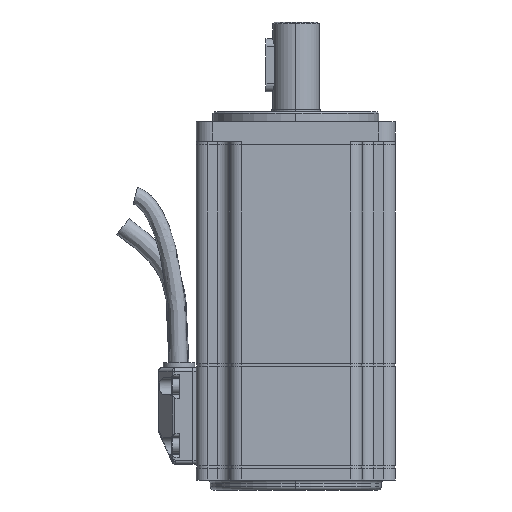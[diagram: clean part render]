
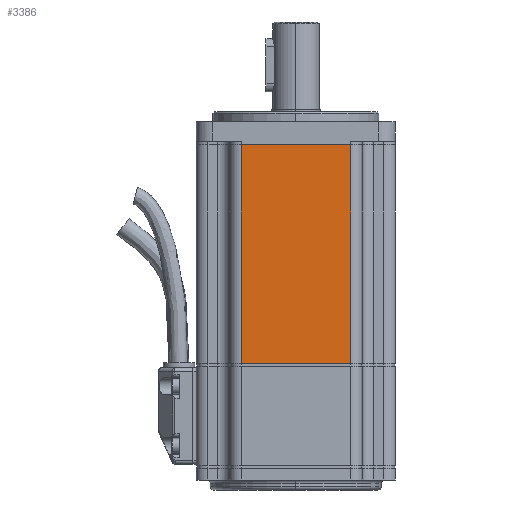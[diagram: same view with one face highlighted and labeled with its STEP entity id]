
A CAD part, left-side view. The second image highlights one B-rep face of the part: STEP entity #3386.
In plain terms, the highlighted planar face has unit normal (-1, 0, 0).
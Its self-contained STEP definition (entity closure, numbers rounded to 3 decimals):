
#3331 = VERTEX_POINT ( 'NONE', #11178 ) ;
#3335 = VERTEX_POINT ( 'NONE', #11172 ) ;
#3337 = EDGE_CURVE ( 'NONE', #3331, #3335, #11171, .T. ) ;
#3386 = ADVANCED_FACE ( 'NONE', ( #11263 ), #11262, .F. ) ;
#3387 = EDGE_LOOP ( 'NONE', ( #3388, #3391, #3392, #3395 ) ) ;
#3388 = ORIENTED_EDGE ( 'NONE', *, *, #3389, .F. ) ;
#3389 = EDGE_CURVE ( 'NONE', #3331, #3390, #11257, .T. ) ;
#3390 = VERTEX_POINT ( 'NONE', #11253 ) ;
#3391 = ORIENTED_EDGE ( 'NONE', *, *, #3337, .T. ) ;
#3392 = ORIENTED_EDGE ( 'NONE', *, *, #3393, .T. ) ;
#3393 = EDGE_CURVE ( 'NONE', #3335, #3394, #11252, .T. ) ;
#3394 = VERTEX_POINT ( 'NONE', #11314 ) ;
#3395 = ORIENTED_EDGE ( 'NONE', *, *, #3396, .T. ) ;
#3396 = EDGE_CURVE ( 'NONE', #3394, #3390, #11313, .T. ) ;
#11168 = DIRECTION ( 'NONE',  ( 0., 0., 1. ) ) ;
#11169 = VECTOR ( 'NONE', #11168, 1000. ) ;
#11170 = CARTESIAN_POINT ( 'NONE',  ( -30., 129.077, -66. ) ) ;
#11171 = LINE ( 'NONE', #11170, #11169 ) ;
#11172 = CARTESIAN_POINT ( 'NONE',  ( -30., 129.077, 0. ) ) ;
#11178 = CARTESIAN_POINT ( 'NONE',  ( -30., 129.077, -66. ) ) ;
#11250 = DIRECTION ( 'NONE',  ( 0., 1., 0. ) ) ;
#11251 = CARTESIAN_POINT ( 'NONE',  ( -30., 125.577, 0. ) ) ;
#11252 = LINE ( 'NONE', #11251, #11315 ) ;
#11253 = CARTESIAN_POINT ( 'NONE',  ( -30., 162.077, -66. ) ) ;
#11254 = DIRECTION ( 'NONE',  ( 0., 1., 0. ) ) ;
#11255 = VECTOR ( 'NONE', #11254, 1000. ) ;
#11256 = CARTESIAN_POINT ( 'NONE',  ( -30., 125.577, -66. ) ) ;
#11257 = LINE ( 'NONE', #11256, #11255 ) ;
#11258 = DIRECTION ( 'NONE',  ( 0., 0., -1. ) ) ;
#11259 = DIRECTION ( 'NONE',  ( 1., 0., 0. ) ) ;
#11260 = AXIS2_PLACEMENT_3D ( 'NONE', #11261, #11259, #11258 ) ;
#11261 = CARTESIAN_POINT ( 'NONE',  ( -30., 125.577, -66. ) ) ;
#11262 = PLANE ( 'NONE',  #11260 ) ;
#11263 = FACE_OUTER_BOUND ( 'NONE', #3387, .T. ) ;
#11310 = DIRECTION ( 'NONE',  ( 0., 0., -1. ) ) ;
#11311 = VECTOR ( 'NONE', #11310, 1000. ) ;
#11312 = CARTESIAN_POINT ( 'NONE',  ( -30., 162.077, -66. ) ) ;
#11313 = LINE ( 'NONE', #11312, #11311 ) ;
#11314 = CARTESIAN_POINT ( 'NONE',  ( -30., 162.077, 0. ) ) ;
#11315 = VECTOR ( 'NONE', #11250, 1000. ) ;
